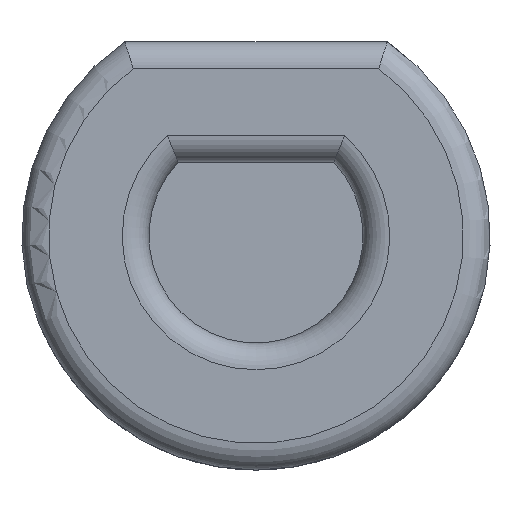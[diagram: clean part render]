
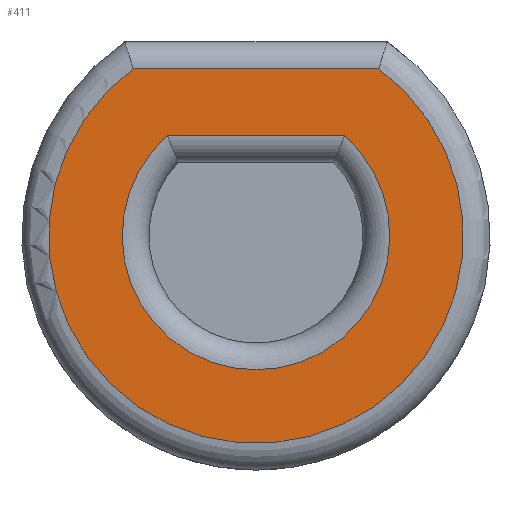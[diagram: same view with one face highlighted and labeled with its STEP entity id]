
A CAD part, front view. The second image highlights one B-rep face of the part: STEP entity #411.
In plain terms, the highlighted planar face has unit normal (0, -1, 0).
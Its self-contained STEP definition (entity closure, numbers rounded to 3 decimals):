
#89 = TOROIDAL_SURFACE('',#90,3.1,0.4);
#90 = AXIS2_PLACEMENT_3D('',#91,#92,#93);
#91 = CARTESIAN_POINT('',(0.,3.78,0.));
#92 = DIRECTION('',(0.,-1.,0.));
#93 = DIRECTION('',(0.56,0.,0.829));
#187 = CYLINDRICAL_SURFACE('',#188,0.4);
#188 = AXIS2_PLACEMENT_3D('',#189,#190,#191);
#189 = CARTESIAN_POINT('',(1.96,3.78,2.5));
#190 = DIRECTION('',(-1.,0.,0.));
#191 = DIRECTION('',(0.,0.,1.));
#203 = VERTEX_POINT('',#204);
#204 = CARTESIAN_POINT('',(1.833,3.38,2.5));
#269 = VERTEX_POINT('',#270);
#270 = CARTESIAN_POINT('',(-1.833,3.38,2.5));
#318 = EDGE_CURVE('',#203,#269,#319,.T.);
#319 = SURFACE_CURVE('',#320,(#325,#332),.PCURVE_S1.);
#320 = CIRCLE('',#321,3.1);
#321 = AXIS2_PLACEMENT_3D('',#322,#323,#324);
#322 = CARTESIAN_POINT('',(0.,3.38,0.));
#323 = DIRECTION('',(0.,1.,0.));
#324 = DIRECTION('',(0.56,0.,0.829));
#325 = PCURVE('',#89,#326);
#326 = DEFINITIONAL_REPRESENTATION('',(#327),#331);
#327 = LINE('',#328,#329);
#328 = CARTESIAN_POINT('',(-0.,1.571));
#329 = VECTOR('',#330,1.);
#330 = DIRECTION('',(-1.,0.));
#331 = ( GEOMETRIC_REPRESENTATION_CONTEXT(2) 
PARAMETRIC_REPRESENTATION_CONTEXT() REPRESENTATION_CONTEXT('2D SPACE',''
  ) );
#332 = PCURVE('',#333,#338);
#333 = PLANE('',#334);
#334 = AXIS2_PLACEMENT_3D('',#335,#336,#337);
#335 = CARTESIAN_POINT('',(0.,3.38,0.));
#336 = DIRECTION('',(0.,-1.,0.));
#337 = DIRECTION('',(1.,0.,0.));
#338 = DEFINITIONAL_REPRESENTATION('',(#339),#347);
#339 = ( BOUNDED_CURVE() B_SPLINE_CURVE(2,(#340,#341,#342,#343,#344,#345
,#346),.UNSPECIFIED.,.T.,.F.) B_SPLINE_CURVE_WITH_KNOTS((1,2,2,2,2,1),(
    -2.094,0.,2.094,4.189,6.283,
8.378),.UNSPECIFIED.) CURVE() GEOMETRIC_REPRESENTATION_ITEM() 
RATIONAL_B_SPLINE_CURVE((1.,0.5,1.,0.5,1.,0.5,1.)) REPRESENTATION_ITEM(
  '') );
#340 = CARTESIAN_POINT('',(1.736,2.569));
#341 = CARTESIAN_POINT('',(6.185,-0.438));
#342 = CARTESIAN_POINT('',(1.357,-2.787));
#343 = CARTESIAN_POINT('',(-3.471,-5.137));
#344 = CARTESIAN_POINT('',(-3.092,0.219));
#345 = CARTESIAN_POINT('',(-2.713,5.575));
#346 = CARTESIAN_POINT('',(1.736,2.569));
#347 = ( GEOMETRIC_REPRESENTATION_CONTEXT(2) 
PARAMETRIC_REPRESENTATION_CONTEXT() REPRESENTATION_CONTEXT('2D SPACE',''
  ) );
#389 = EDGE_CURVE('',#203,#269,#390,.T.);
#390 = SURFACE_CURVE('',#391,(#395,#402),.PCURVE_S1.);
#391 = LINE('',#392,#393);
#392 = CARTESIAN_POINT('',(1.96,3.38,2.5));
#393 = VECTOR('',#394,1.);
#394 = DIRECTION('',(-1.,0.,0.));
#395 = PCURVE('',#187,#396);
#396 = DEFINITIONAL_REPRESENTATION('',(#397),#401);
#397 = LINE('',#398,#399);
#398 = CARTESIAN_POINT('',(-1.571,0.));
#399 = VECTOR('',#400,1.);
#400 = DIRECTION('',(-0.,1.));
#401 = ( GEOMETRIC_REPRESENTATION_CONTEXT(2) 
PARAMETRIC_REPRESENTATION_CONTEXT() REPRESENTATION_CONTEXT('2D SPACE',''
  ) );
#402 = PCURVE('',#333,#403);
#403 = DEFINITIONAL_REPRESENTATION('',(#404),#408);
#404 = LINE('',#405,#406);
#405 = CARTESIAN_POINT('',(1.96,2.5));
#406 = VECTOR('',#407,1.);
#407 = DIRECTION('',(-1.,0.));
#408 = ( GEOMETRIC_REPRESENTATION_CONTEXT(2) 
PARAMETRIC_REPRESENTATION_CONTEXT() REPRESENTATION_CONTEXT('2D SPACE',''
  ) );
#411 = ADVANCED_FACE('',(#412,#416),#333,.T.);
#412 = FACE_BOUND('',#413,.T.);
#413 = EDGE_LOOP('',(#414,#415));
#414 = ORIENTED_EDGE('',*,*,#318,.F.);
#415 = ORIENTED_EDGE('',*,*,#389,.T.);
#416 = FACE_BOUND('',#417,.T.);
#417 = EDGE_LOOP('',(#418,#448));
#418 = ORIENTED_EDGE('',*,*,#419,.F.);
#419 = EDGE_CURVE('',#420,#422,#424,.T.);
#420 = VERTEX_POINT('',#421);
#421 = CARTESIAN_POINT('',(1.323,3.38,1.5));
#422 = VERTEX_POINT('',#423);
#423 = CARTESIAN_POINT('',(-1.323,3.38,1.5));
#424 = SURFACE_CURVE('',#425,(#429,#436),.PCURVE_S1.);
#425 = LINE('',#426,#427);
#426 = CARTESIAN_POINT('',(1.162,3.38,1.5));
#427 = VECTOR('',#428,1.);
#428 = DIRECTION('',(-1.,0.,0.));
#429 = PCURVE('',#333,#430);
#430 = DEFINITIONAL_REPRESENTATION('',(#431),#435);
#431 = LINE('',#432,#433);
#432 = CARTESIAN_POINT('',(1.162,1.5));
#433 = VECTOR('',#434,1.);
#434 = DIRECTION('',(-1.,0.));
#435 = ( GEOMETRIC_REPRESENTATION_CONTEXT(2) 
PARAMETRIC_REPRESENTATION_CONTEXT() REPRESENTATION_CONTEXT('2D SPACE',''
  ) );
#436 = PCURVE('',#437,#442);
#437 = CYLINDRICAL_SURFACE('',#438,0.4);
#438 = AXIS2_PLACEMENT_3D('',#439,#440,#441);
#439 = CARTESIAN_POINT('',(1.162,3.78,1.5));
#440 = DIRECTION('',(-1.,0.,0.));
#441 = DIRECTION('',(0.,-1.,0.));
#442 = DEFINITIONAL_REPRESENTATION('',(#443),#447);
#443 = LINE('',#444,#445);
#444 = CARTESIAN_POINT('',(-0.,0.));
#445 = VECTOR('',#446,1.);
#446 = DIRECTION('',(-0.,1.));
#447 = ( GEOMETRIC_REPRESENTATION_CONTEXT(2) 
PARAMETRIC_REPRESENTATION_CONTEXT() REPRESENTATION_CONTEXT('2D SPACE',''
  ) );
#448 = ORIENTED_EDGE('',*,*,#449,.T.);
#449 = EDGE_CURVE('',#420,#422,#450,.T.);
#450 = SURFACE_CURVE('',#451,(#456,#467),.PCURVE_S1.);
#451 = CIRCLE('',#452,2.);
#452 = AXIS2_PLACEMENT_3D('',#453,#454,#455);
#453 = CARTESIAN_POINT('',(0.,3.38,0.));
#454 = DIRECTION('',(0.,1.,0.));
#455 = DIRECTION('',(0.726,0.,0.688));
#456 = PCURVE('',#333,#457);
#457 = DEFINITIONAL_REPRESENTATION('',(#458),#466);
#458 = ( BOUNDED_CURVE() B_SPLINE_CURVE(2,(#459,#460,#461,#462,#463,#464
,#465),.UNSPECIFIED.,.T.,.F.) B_SPLINE_CURVE_WITH_KNOTS((1,2,2,2,2,1),(
    -2.094,0.,2.094,4.189,6.283,
8.378),.UNSPECIFIED.) CURVE() GEOMETRIC_REPRESENTATION_ITEM() 
RATIONAL_B_SPLINE_CURVE((1.,0.5,1.,0.5,1.,0.5,1.)) REPRESENTATION_ITEM(
  '') );
#459 = CARTESIAN_POINT('',(1.452,1.375));
#460 = CARTESIAN_POINT('',(3.834,-1.141));
#461 = CARTESIAN_POINT('',(0.465,-1.945));
#462 = CARTESIAN_POINT('',(-2.905,-2.75));
#463 = CARTESIAN_POINT('',(-1.917,0.57));
#464 = CARTESIAN_POINT('',(-0.929,3.891));
#465 = CARTESIAN_POINT('',(1.452,1.375));
#466 = ( GEOMETRIC_REPRESENTATION_CONTEXT(2) 
PARAMETRIC_REPRESENTATION_CONTEXT() REPRESENTATION_CONTEXT('2D SPACE',''
  ) );
#467 = PCURVE('',#468,#473);
#468 = TOROIDAL_SURFACE('',#469,2.,0.4);
#469 = AXIS2_PLACEMENT_3D('',#470,#471,#472);
#470 = CARTESIAN_POINT('',(0.,3.78,0.));
#471 = DIRECTION('',(0.,-1.,0.));
#472 = DIRECTION('',(0.726,0.,0.688));
#473 = DEFINITIONAL_REPRESENTATION('',(#474),#478);
#474 = LINE('',#475,#476);
#475 = CARTESIAN_POINT('',(-0.,1.571));
#476 = VECTOR('',#477,1.);
#477 = DIRECTION('',(-1.,0.));
#478 = ( GEOMETRIC_REPRESENTATION_CONTEXT(2) 
PARAMETRIC_REPRESENTATION_CONTEXT() REPRESENTATION_CONTEXT('2D SPACE',''
  ) );
